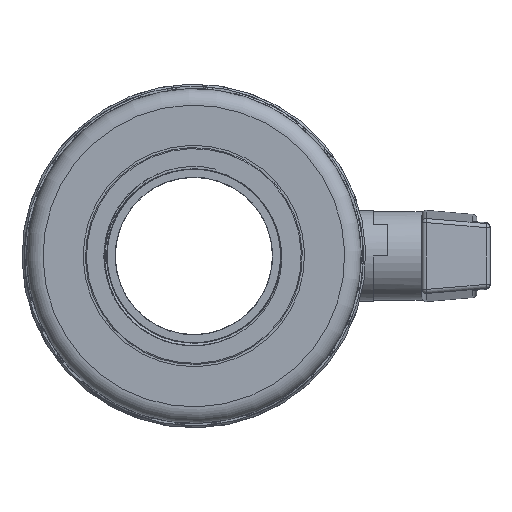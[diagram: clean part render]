
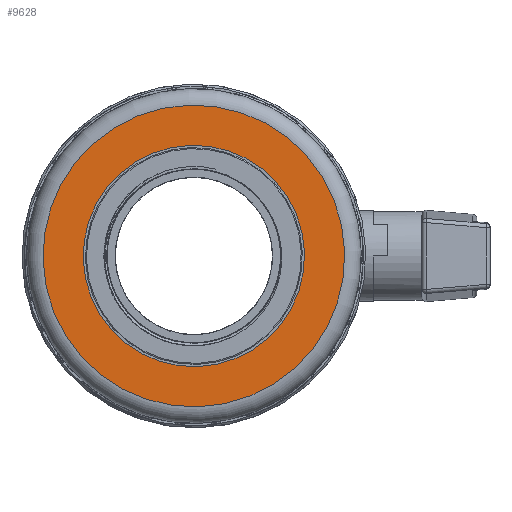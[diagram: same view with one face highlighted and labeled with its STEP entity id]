
A CAD part, front view. The second image highlights one B-rep face of the part: STEP entity #9628.
In plain terms, the highlighted planar face has unit normal (0, -1, 0).
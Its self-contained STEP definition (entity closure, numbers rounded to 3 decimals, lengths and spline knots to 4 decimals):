
#151=PLANE('',#10437);
#456=FACE_BOUND('',#2593,.T.);
#1972=FACE_OUTER_BOUND('',#2592,.T.);
#2592=EDGE_LOOP('',(#7422));
#2593=EDGE_LOOP('',(#7423));
#3432=CIRCLE('',#10438,7.375);
#3433=CIRCLE('',#10439,5.41);
#4155=VERTEX_POINT('',#43164);
#4156=VERTEX_POINT('',#43166);
#5324=EDGE_CURVE('',#4155,#4155,#3432,.T.);
#5325=EDGE_CURVE('',#4156,#4156,#3433,.T.);
#7422=ORIENTED_EDGE('',*,*,#5324,.F.);
#7423=ORIENTED_EDGE('',*,*,#5325,.T.);
#9628=ADVANCED_FACE('',(#1972,#456),#151,.T.);
#10437=AXIS2_PLACEMENT_3D('',#43163,#12296,#12297);
#10438=AXIS2_PLACEMENT_3D('',#43165,#12298,#12299);
#10439=AXIS2_PLACEMENT_3D('',#43167,#12300,#12301);
#12296=DIRECTION('center_axis',(0.,-1.,0.));
#12297=DIRECTION('ref_axis',(-0.85,0.,-0.527));
#12298=DIRECTION('center_axis',(0.,1.,0.));
#12299=DIRECTION('ref_axis',(0.527,0.,-0.85));
#12300=DIRECTION('center_axis',(0.,1.,0.));
#12301=DIRECTION('ref_axis',(0.527,0.,-0.85));
#43163=CARTESIAN_POINT('Origin',(-3.8885,-8.65,6.2666));
#43164=CARTESIAN_POINT('',(-3.8885,-8.65,6.2666));
#43165=CARTESIAN_POINT('Origin',(0.,-8.65,0.));
#43166=CARTESIAN_POINT('',(-2.8524,-8.65,4.5969));
#43167=CARTESIAN_POINT('Origin',(0.,-8.65,0.));
